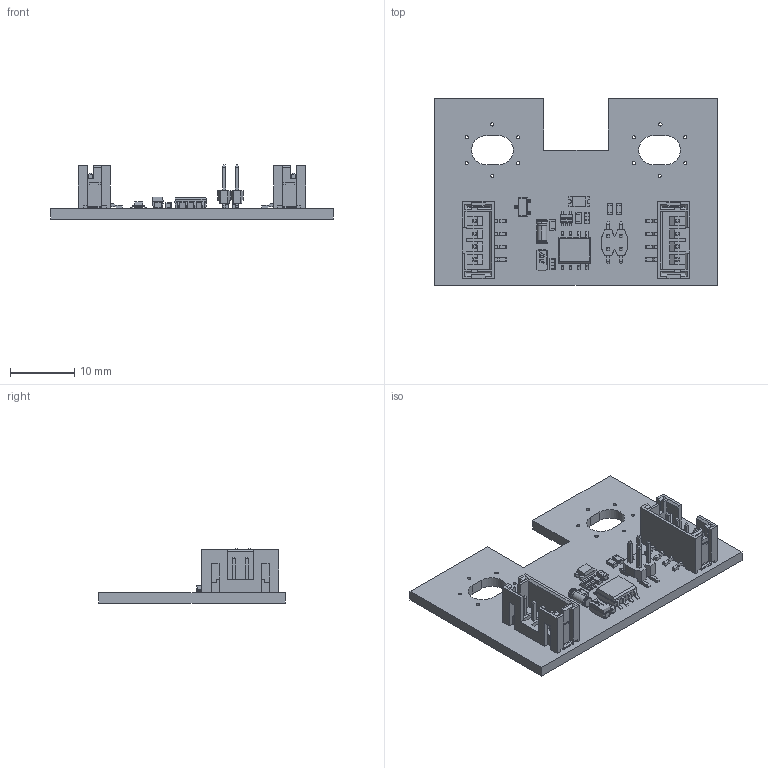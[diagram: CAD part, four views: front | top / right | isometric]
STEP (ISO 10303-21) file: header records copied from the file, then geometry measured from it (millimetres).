
FILE_DESCRIPTION(('Open CASCADE Model'),'2;1');
FILE_NAME('Open CASCADE Shape Model','2025-04-02T21:10:46',('Author'),( 'Open CASCADE'),'Open CASCADE STEP processor 6.8','Open CASCADE 6.8' ,'Unknown');
FILE_SCHEMA(('AUTOMOTIVE_DESIGN { 1 0 10303 214 1 1 1 1 }'));
Length unit declared in the file: millimetre
Products named in the file (32): PCB; Board; R2; MCR03; R1; J6; 126104ST; BODY; PIN; NAIL; J5; C3; GRM188; Q2; SOT-353; D2; LTST-C150GKT; C1; R3; R4; U1; ATTINY402; D1; PMLL4148L; C2; TCA1A106M8R; Q1; FDN306P; J1; CH71042M100-0P; 12P_4; SMT_PIN-PC
Assembly tree (43 placements, depth 4):
  PCB
    Board
    R2
      MCR03
    R1
      MCR03
    J6
      126104ST
        BODY
        PIN  x4
        NAIL  x2
    J5
      126104ST
        BODY
        PIN  x4
        NAIL  x2
    C3
      GRM188
    Q2
      SOT-353
    D2
      LTST-C150GKT
    C1
      GRM188
    R3
      MCR03
    R4
      MCR03
    U1
      ATTINY402
    D1
      PMLL4148L
    C2
      TCA1A106M8R
    Q1
      FDN306P
    J1
      CH71042M100-0P
        12P_4
        SMT_PIN-PC  x4
Bounding box: 44 x 29 x 8.43 mm (x, y, z)
Volume: 2339.8 mm3; surface area: 4381 mm2
Topology: 39 solids, 39 shells, 1721 faces, 4544 edges, 2878 vertices
Faces by surface type: plane 1238, cylinder 334, bspline 73, torus 52, sphere 24
Full cylindrical faces by diameter (mm): 0.5 x12
Entity records: 39905 total; most frequent: CARTESIAN_POINT 9994, ORIENTED_EDGE 5266, DIRECTION 4901, EDGE_CURVE 2633, LINE 2039, VECTOR 2039, VERTEX_POINT 1664, AXIS2_PLACEMENT_3D 1431
